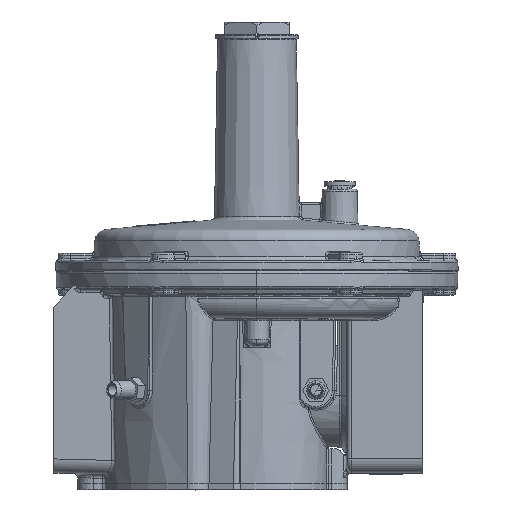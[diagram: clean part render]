
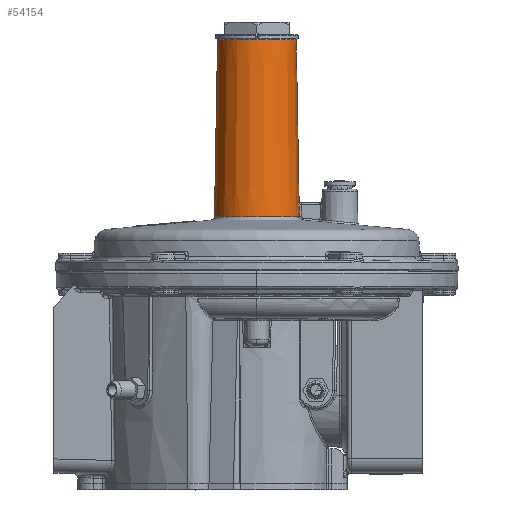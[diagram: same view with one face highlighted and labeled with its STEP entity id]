
A CAD part, top view. The second image highlights one B-rep face of the part: STEP entity #54154.
In plain terms, the highlighted conical face has half-angle 1 degrees and reference radius 19 mm.
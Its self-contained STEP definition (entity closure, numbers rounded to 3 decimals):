
#970 = DIRECTION ( 'NONE',  ( 1., 0., 0. ) ) ;
#975 = DIRECTION ( 'NONE',  ( 0., -1., 0. ) ) ;
#977 = CARTESIAN_POINT ( 'NONE',  ( 0., 147.346, 0. ) ) ;
#16574 = FACE_OUTER_BOUND ( 'NONE', #35936, .T. ) ;
#16585 = CONICAL_SURFACE ( 'NONE', #35126, 19., 0.017 ) ;
#26977 = B_SPLINE_CURVE_WITH_KNOTS ( 'NONE', 3,
 ( #32484, #32485, #32489, #32490, #32491, #32492, #32493 ),
 .UNSPECIFIED., .F., .F.,
 ( 4, 3, 4 ),
 ( 0., 0.002, 0.008 ),
 .UNSPECIFIED. ) ;
#32471 = CARTESIAN_POINT ( 'NONE',  ( -19., 147.346, 0. ) ) ;
#32472 = DIRECTION ( 'NONE',  ( -0.017, -1., 0. ) ) ;
#32479 = CARTESIAN_POINT ( 'NONE',  ( 19., 147.346, 0. ) ) ;
#32480 = DIRECTION ( 'NONE',  ( 0.017, -1., 0. ) ) ;
#32481 = CARTESIAN_POINT ( 'NONE',  ( 0., 146.855, 0. ) ) ;
#32482 = DIRECTION ( 'NONE',  ( 0., -1., 0. ) ) ;
#32483 = DIRECTION ( 'NONE',  ( -1., 0., 0. ) ) ;
#32484 = CARTESIAN_POINT ( 'NONE',  ( 20.406, 61.744, 1.907 ) ) ;
#32485 = CARTESIAN_POINT ( 'NONE',  ( 20.394, 62.41, 1.907 ) ) ;
#32486 = CARTESIAN_POINT ( 'NONE',  ( 0., 61.744, 0. ) ) ;
#32487 = DIRECTION ( 'NONE',  ( 0., -1., 0. ) ) ;
#32488 = DIRECTION ( 'NONE',  ( 1., 0., 0. ) ) ;
#32489 = CARTESIAN_POINT ( 'NONE',  ( 20.382, 63.077, 1.907 ) ) ;
#32490 = CARTESIAN_POINT ( 'NONE',  ( 20.371, 63.743, 1.907 ) ) ;
#32491 = CARTESIAN_POINT ( 'NONE',  ( 20.338, 65.605, 1.907 ) ) ;
#32492 = CARTESIAN_POINT ( 'NONE',  ( 20.305, 67.467, 1.907 ) ) ;
#32493 = CARTESIAN_POINT ( 'NONE',  ( 20.273, 69.328, 1.906 ) ) ;
#32494 = CARTESIAN_POINT ( 'NONE',  ( 0., 69.328, 0. ) ) ;
#32495 = DIRECTION ( 'NONE',  ( 0., 1., 0. ) ) ;
#32496 = DIRECTION ( 'NONE',  ( -1., 0., 0. ) ) ;
#35126 = AXIS2_PLACEMENT_3D ( 'NONE', #977, #975, #970 ) ;
#35936 = EDGE_LOOP ( 'NONE', ( #39297, #39303, #39292, #39260, #39285, #39186 ) ) ;
#38577 = CARTESIAN_POINT ( 'NONE',  ( -19.008, 146.855, 0. ) ) ;
#38581 = CARTESIAN_POINT ( 'NONE',  ( 20.273, 69.328, 1.906 ) ) ;
#38582 = CARTESIAN_POINT ( 'NONE',  ( 20.406, 61.744, 1.907 ) ) ;
#38588 = CARTESIAN_POINT ( 'NONE',  ( 19.008, 146.855, 0. ) ) ;
#38589 = CARTESIAN_POINT ( 'NONE',  ( -20.495, 61.744, 0. ) ) ;
#38660 = CARTESIAN_POINT ( 'NONE',  ( 20.362, 69.328, 0. ) ) ;
#39186 = ORIENTED_EDGE ( 'NONE', *, *, #49772, .F. ) ;
#39260 = ORIENTED_EDGE ( 'NONE', *, *, #49770, .T. ) ;
#39285 = ORIENTED_EDGE ( 'NONE', *, *, #49771, .T. ) ;
#39292 = ORIENTED_EDGE ( 'NONE', *, *, #49769, .F. ) ;
#39297 = ORIENTED_EDGE ( 'NONE', *, *, #49768, .T. ) ;
#39303 = ORIENTED_EDGE ( 'NONE', *, *, #49767, .T. ) ;
#46304 = AXIS2_PLACEMENT_3D ( 'NONE', #32481, #32482, #32483 ) ;
#46305 = AXIS2_PLACEMENT_3D ( 'NONE', #32486, #32487, #32488 ) ;
#46306 = AXIS2_PLACEMENT_3D ( 'NONE', #32494, #32495, #32496 ) ;
#47797 = CIRCLE ( 'NONE', #46304, 19.008 ) ;
#47800 = LINE ( 'NONE', #32471, #47802 ) ;
#47801 = LINE ( 'NONE', #32479, #47807 ) ;
#47802 = VECTOR ( 'NONE', #32472, 1000. ) ;
#47803 = CIRCLE ( 'NONE', #46305, 20.495 ) ;
#47804 = CIRCLE ( 'NONE', #46306, 20.362 ) ;
#47807 = VECTOR ( 'NONE', #32480, 1000. ) ;
#49767 = EDGE_CURVE ( 'NONE', #52829, #52847, #47800, .T. ) ;
#49768 = EDGE_CURVE ( 'NONE', #52845, #52829, #47797, .T. ) ;
#49769 = EDGE_CURVE ( 'NONE', #52835, #52847, #47803, .T. ) ;
#49770 = EDGE_CURVE ( 'NONE', #52835, #52833, #26977, .T. ) ;
#49771 = EDGE_CURVE ( 'NONE', #52833, #52991, #47804, .T. ) ;
#49772 = EDGE_CURVE ( 'NONE', #52845, #52991, #47801, .T. ) ;
#52829 = VERTEX_POINT ( 'NONE', #38577 ) ;
#52833 = VERTEX_POINT ( 'NONE', #38581 ) ;
#52835 = VERTEX_POINT ( 'NONE', #38582 ) ;
#52845 = VERTEX_POINT ( 'NONE', #38588 ) ;
#52847 = VERTEX_POINT ( 'NONE', #38589 ) ;
#52991 = VERTEX_POINT ( 'NONE', #38660 ) ;
#54154 = ADVANCED_FACE ( 'NONE', ( #16574 ), #16585, .T. ) ;
